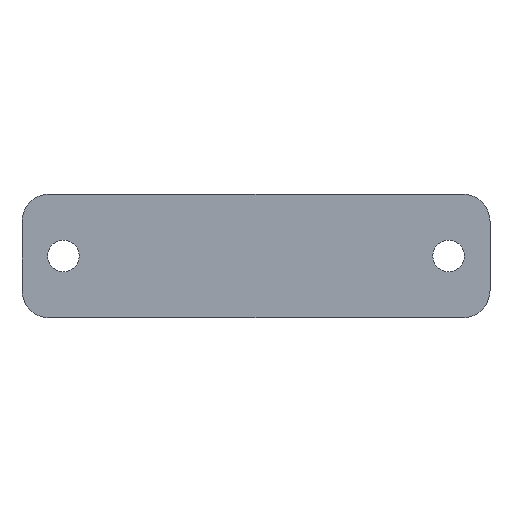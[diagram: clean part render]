
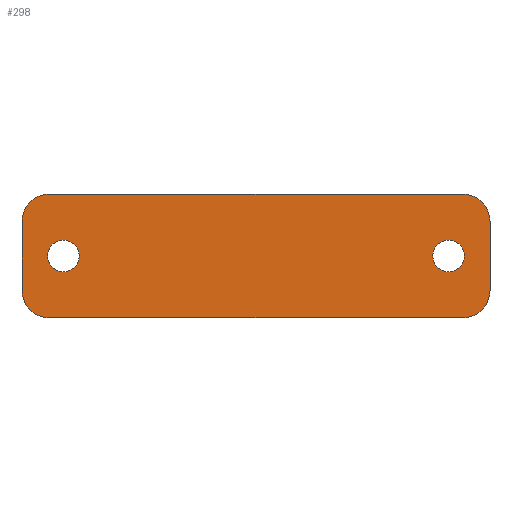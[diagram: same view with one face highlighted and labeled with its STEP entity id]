
A CAD part, top view. The second image highlights one B-rep face of the part: STEP entity #298.
In plain terms, the highlighted planar face has unit normal (0, 0, 1).
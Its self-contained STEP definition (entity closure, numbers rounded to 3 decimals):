
#16=FACE_BOUND('',#66,.T.);
#17=FACE_BOUND('',#67,.T.);
#35=CIRCLE('',#336,2.);
#36=CIRCLE('',#338,2.);
#37=CIRCLE('',#339,2.);
#38=CIRCLE('',#340,2.);
#39=CIRCLE('',#341,1.15);
#40=CIRCLE('',#342,1.15);
#48=FACE_OUTER_BOUND('',#65,.T.);
#65=EDGE_LOOP('',(#232,#233,#234,#235,#236,#237,#238,#239));
#66=EDGE_LOOP('',(#240));
#67=EDGE_LOOP('',(#241));
#81=LINE('',#455,#107);
#92=LINE('',#497,#118);
#93=LINE('',#501,#119);
#94=LINE('',#504,#120);
#107=VECTOR('',#361,1.);
#118=VECTOR('',#402,1.);
#119=VECTOR('',#405,1.);
#120=VECTOR('',#408,1.);
#133=VERTEX_POINT('',#452);
#134=VERTEX_POINT('',#454);
#148=VERTEX_POINT('',#490);
#149=VERTEX_POINT('',#494);
#150=VERTEX_POINT('',#496);
#151=VERTEX_POINT('',#498);
#152=VERTEX_POINT('',#500);
#153=VERTEX_POINT('',#502);
#154=VERTEX_POINT('',#505);
#155=VERTEX_POINT('',#507);
#161=EDGE_CURVE('',#133,#134,#81,.T.);
#179=EDGE_CURVE('',#134,#148,#35,.T.);
#181=EDGE_CURVE('',#149,#133,#36,.T.);
#182=EDGE_CURVE('',#149,#150,#92,.T.);
#183=EDGE_CURVE('',#151,#150,#37,.T.);
#184=EDGE_CURVE('',#151,#152,#93,.T.);
#185=EDGE_CURVE('',#153,#152,#38,.T.);
#186=EDGE_CURVE('',#148,#153,#94,.T.);
#187=EDGE_CURVE('',#154,#154,#39,.T.);
#188=EDGE_CURVE('',#155,#155,#40,.T.);
#232=ORIENTED_EDGE('',*,*,#161,.F.);
#233=ORIENTED_EDGE('',*,*,#181,.F.);
#234=ORIENTED_EDGE('',*,*,#182,.T.);
#235=ORIENTED_EDGE('',*,*,#183,.F.);
#236=ORIENTED_EDGE('',*,*,#184,.T.);
#237=ORIENTED_EDGE('',*,*,#185,.F.);
#238=ORIENTED_EDGE('',*,*,#186,.F.);
#239=ORIENTED_EDGE('',*,*,#179,.F.);
#240=ORIENTED_EDGE('',*,*,#187,.F.);
#241=ORIENTED_EDGE('',*,*,#188,.F.);
#288=PLANE('',#337);
#298=ADVANCED_FACE('',(#48,#16,#17),#288,.T.);
#336=AXIS2_PLACEMENT_3D('',#491,#395,#396);
#337=AXIS2_PLACEMENT_3D('',#493,#398,#399);
#338=AXIS2_PLACEMENT_3D('',#495,#400,#401);
#339=AXIS2_PLACEMENT_3D('',#499,#403,#404);
#340=AXIS2_PLACEMENT_3D('',#503,#406,#407);
#341=AXIS2_PLACEMENT_3D('',#506,#409,#410);
#342=AXIS2_PLACEMENT_3D('',#508,#411,#412);
#361=DIRECTION('',(0.,1.,0.));
#395=DIRECTION('center_axis',(0.,0.,-1.));
#396=DIRECTION('ref_axis',(-1.,0.,0.));
#398=DIRECTION('center_axis',(0.,0.,1.));
#399=DIRECTION('ref_axis',(1.,0.,0.));
#400=DIRECTION('center_axis',(0.,0.,-1.));
#401=DIRECTION('ref_axis',(-1.,0.,0.));
#402=DIRECTION('',(1.,0.,0.));
#403=DIRECTION('center_axis',(0.,0.,-1.));
#404=DIRECTION('ref_axis',(-1.,0.,0.));
#405=DIRECTION('',(0.,1.,0.));
#406=DIRECTION('center_axis',(0.,0.,-1.));
#407=DIRECTION('ref_axis',(-1.,0.,0.));
#408=DIRECTION('',(1.,0.,0.));
#409=DIRECTION('center_axis',(0.,0.,1.));
#410=DIRECTION('ref_axis',(1.,0.,0.));
#411=DIRECTION('center_axis',(0.,0.,1.));
#412=DIRECTION('ref_axis',(1.,0.,0.));
#452=CARTESIAN_POINT('',(-17.,-34.5,-19.13));
#454=CARTESIAN_POINT('',(-17.,-29.5,-19.13));
#455=CARTESIAN_POINT('',(-17.,-32.,-19.13));
#490=CARTESIAN_POINT('',(-15.,-27.5,-19.13));
#491=CARTESIAN_POINT('Origin',(-15.,-29.5,-19.13));
#493=CARTESIAN_POINT('Origin',(0.,-32.,-19.13));
#494=CARTESIAN_POINT('',(-15.,-36.5,-19.13));
#495=CARTESIAN_POINT('Origin',(-15.,-34.5,-19.13));
#496=CARTESIAN_POINT('',(15.,-36.5,-19.13));
#497=CARTESIAN_POINT('',(0.,-36.5,-19.13));
#498=CARTESIAN_POINT('',(17.,-34.5,-19.13));
#499=CARTESIAN_POINT('Origin',(15.,-34.5,-19.13));
#500=CARTESIAN_POINT('',(17.,-29.5,-19.13));
#501=CARTESIAN_POINT('',(17.,-32.,-19.13));
#502=CARTESIAN_POINT('',(15.,-27.5,-19.13));
#503=CARTESIAN_POINT('Origin',(15.,-29.5,-19.13));
#504=CARTESIAN_POINT('',(0.,-27.5,-19.13));
#505=CARTESIAN_POINT('',(-15.15,-32.,-19.13));
#506=CARTESIAN_POINT('Origin',(-14.,-32.,-19.13));
#507=CARTESIAN_POINT('',(12.85,-32.,-19.13));
#508=CARTESIAN_POINT('Origin',(14.,-32.,-19.13));
